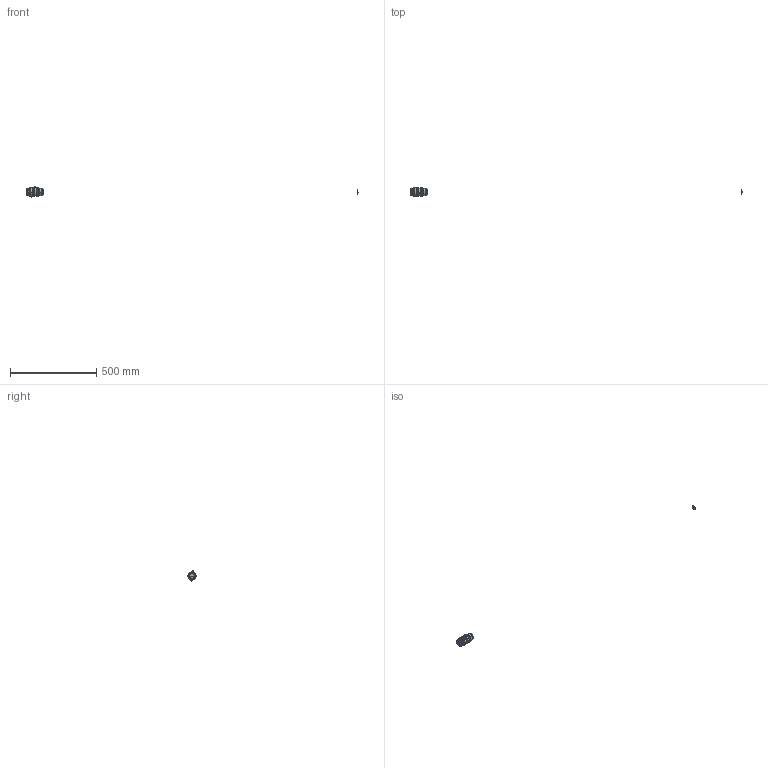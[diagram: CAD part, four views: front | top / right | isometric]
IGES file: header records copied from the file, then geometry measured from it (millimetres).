
Start section: SolidWorks IGES file using analytic representation for surfaces
Global section: file name: \\192.168.200.11\Development\4 ŠJ”­ŒŸ“¢\2021”N“x\D-2100114_M2027A_VS-H5024-IRC_11\10.3DŠOŠÏƒ‚ƒfƒ‹\VS-H5024-IRC_11_Drawing_M2027A-A001--(DRAFT) .IGS; native system: SolidWorks 2021; preprocessor: SolidWorks 2021; author: tsuzuki_vst; date: 211214.100433; units: millimetre
Bounding box: 1925.45 x 49 x 58.44 mm (x, y, z)
Surface area: 22243.6 mm2 (no closed solid volume)
Topology: 0 solids, 0 shells, 313 faces, 4084 edges, 4083 vertices
Faces by surface type: revolution 192, bspline 121
